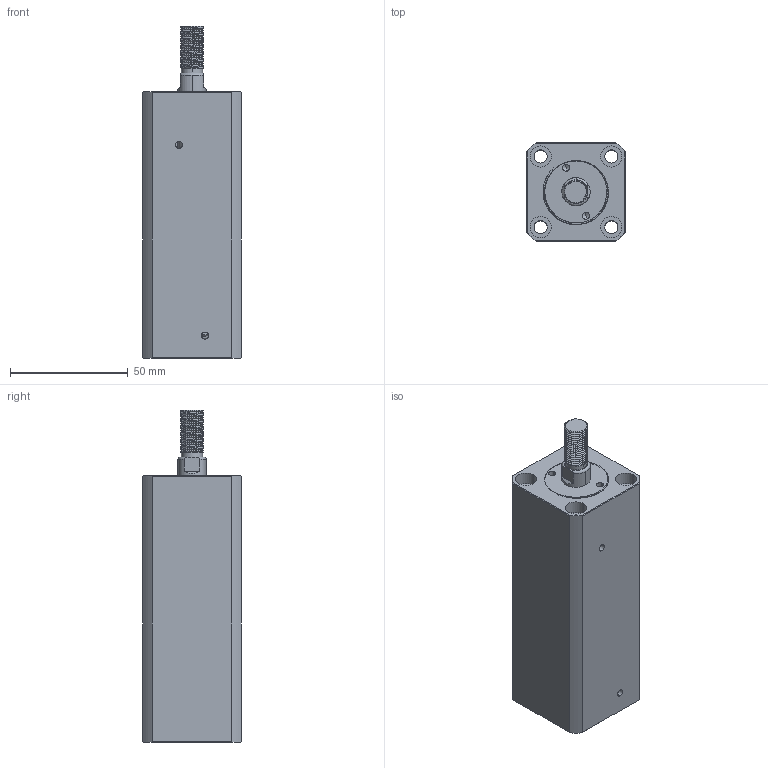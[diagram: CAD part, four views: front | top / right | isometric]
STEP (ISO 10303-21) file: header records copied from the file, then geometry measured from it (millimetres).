
FILE_DESCRIPTION (( 'STEP AP214' ), '1' );
FILE_NAME ('chtb-sdmb20x70w_asm.STEP', '2018-05-18T08:37:00', ( 'Windows' ), ( 'Microsoft' ), 'SwSTEP 2.0', 'SolidWorks 2015', '' );
FILE_SCHEMA (( 'AUTOMOTIVE_DESIGN' ));
Length unit declared in the file: millimetre
Products named in the file (4): QG_3; CHTB-SDMB20X70WHSG; CHTB-SDMB20X70NBT; chtb-sdmb20x70w_asm
Assembly tree (3 placements, depth 2):
  chtb-sdmb20x70w_asm
    CHTB-SDMB20X70NBT
    CHTB-SDMB20X70WHSG
    QG_3
Bounding box: 42 x 42 x 141 mm (x, y, z)
Volume: 169217 mm3; surface area: 48566.7 mm2
Topology: 3 solids, 3 shells, 243 faces, 660 edges, 439 vertices
Faces by surface type: cylinder 143, plane 47, torus 25, bspline 23, cone 5
Entity records: 14768 total; most frequent: CARTESIAN_POINT 8984, ORIENTED_EDGE 1312, DIRECTION 1058, EDGE_CURVE 656, VERTEX_POINT 439, AXIS2_PLACEMENT_3D 434, EDGE_LOOP 281, FACE_OUTER_BOUND 243
